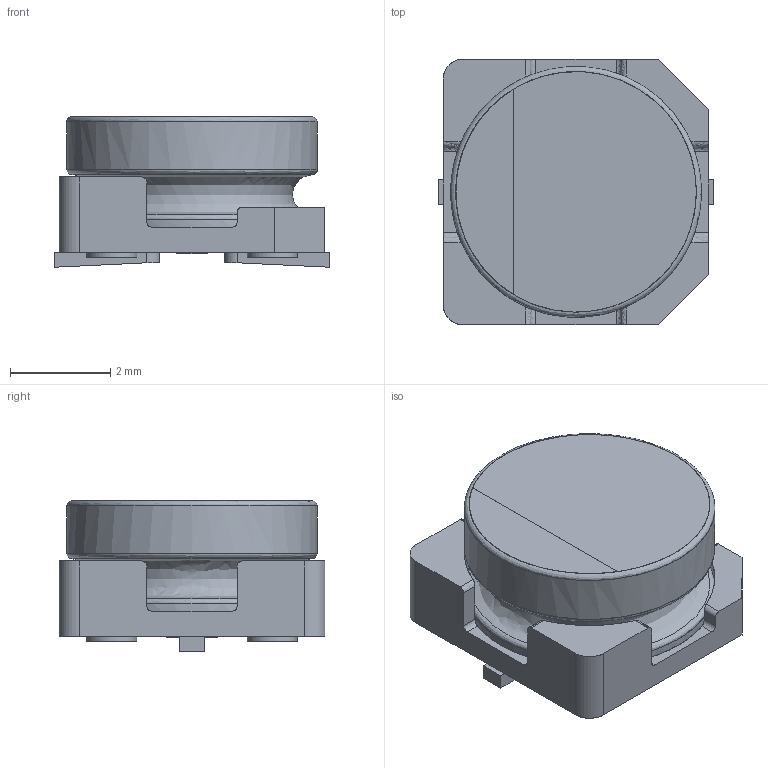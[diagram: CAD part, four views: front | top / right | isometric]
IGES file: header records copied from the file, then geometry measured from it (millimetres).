
Start section: JAMA-IS VERSION  1.0
Bounding box: 5.5 x 5.3 x 3 mm (x, y, z)
Surface area: 174.2 mm2 (no closed solid volume)
Topology: 0 solids, 0 shells, 81 faces, 944 edges, 926 vertices
Faces by surface type: bspline 81
